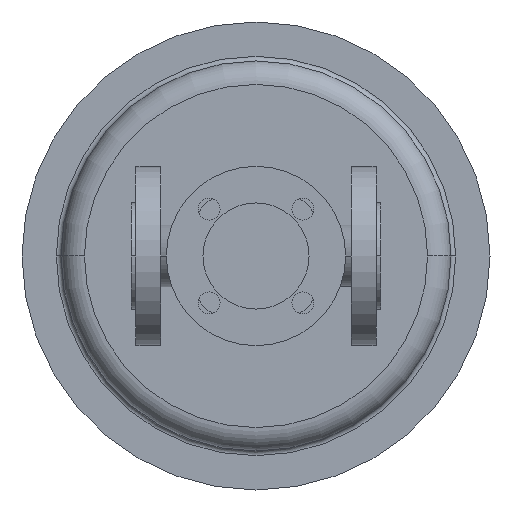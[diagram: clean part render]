
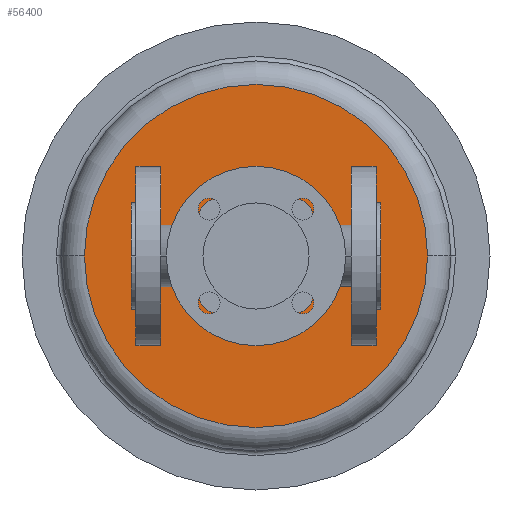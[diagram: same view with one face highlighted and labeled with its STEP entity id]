
A CAD part, front view. The second image highlights one B-rep face of the part: STEP entity #56400.
In plain terms, the highlighted planar face has unit normal (0, -1, 0).
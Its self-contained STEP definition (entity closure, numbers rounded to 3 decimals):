
#48630=CARTESIAN_POINT('',(-30.,545.,0.));
#48640=VERTEX_POINT('',#48630);
#48670=CARTESIAN_POINT('',(80.,545.,0.));
#48680=DIRECTION('',(0.,1.,0.));
#48690=DIRECTION('',(1.,0.,0.));
#48700=AXIS2_PLACEMENT_3D('',#48670,#48680,#48690);
#48710=CIRCLE('',#48700,110.);
#48720=CARTESIAN_POINT('',(80.,545.,-110.));
#48730=VERTEX_POINT('',#48720);
#48740=EDGE_CURVE('',#48730,#48640,#48710,.T.);
#48760=CARTESIAN_POINT('',(190.,545.,0.));
#48770=VERTEX_POINT('',#48760);
#48780=EDGE_CURVE('',#48770,#48730,#48710,.T.);
#49450=CARTESIAN_POINT('',(145.,545.,0.));
#49460=VERTEX_POINT('',#49450);
#49620=CARTESIAN_POINT('',(115.,545.,0.));
#49630=VERTEX_POINT('',#49620);
#49660=CARTESIAN_POINT('',(130.,545.,0.));
#49670=DIRECTION('',(0.,1.,0.));
#49680=DIRECTION('',(1.,0.,0.));
#49690=AXIS2_PLACEMENT_3D('',#49660,#49670,#49680);
#49700=CIRCLE('',#49690,15.);
#49710=EDGE_CURVE('',#49630,#49460,#49700,.T.);
#49870=CARTESIAN_POINT('',(45.,545.,0.));
#49880=VERTEX_POINT('',#49870);
#49910=CARTESIAN_POINT('',(30.,545.,0.));
#49920=DIRECTION('',(0.,1.,0.));
#49930=DIRECTION('',(1.,0.,0.));
#49940=AXIS2_PLACEMENT_3D('',#49910,#49920,#49930);
#49950=CIRCLE('',#49940,15.);
#49960=CARTESIAN_POINT('',(15.,545.,0.));
#49970=VERTEX_POINT('',#49960);
#49980=EDGE_CURVE('',#49880,#49970,#49950,.T.);
#50270=CARTESIAN_POINT('',(61.55,545.,0.));
#50280=VERTEX_POINT('',#50270);
#50330=CARTESIAN_POINT('',(80.,545.,0.));
#50340=DIRECTION('',(0.,1.,0.));
#50350=DIRECTION('',(1.,0.,0.));
#50360=AXIS2_PLACEMENT_3D('',#50330,#50340,#50350);
#50370=CIRCLE('',#50360,18.45);
#50380=CARTESIAN_POINT('',(98.45,545.,0.));
#50390=VERTEX_POINT('',#50380);
#50400=EDGE_CURVE('',#50280,#50390,#50370,.T.);
#56140=CARTESIAN_POINT('',(135.,545.,0.));
#56150=DIRECTION('',(0.,-1.,0.));
#56160=DIRECTION('',(-1.,0.,0.));
#56170=AXIS2_PLACEMENT_3D('',#56140,#56150,#56160);
#56180=PLANE('',#56170);
#56190=ORIENTED_EDGE('',*,*,#50400,.T.);
#56200=EDGE_CURVE('',#50390,#50280,#50370,.T.);
#56210=ORIENTED_EDGE('',*,*,#56200,.T.);
#56220=EDGE_LOOP('',(#56210,#56190));
#56230=FACE_BOUND('',#56220,.T.);
#56240=ORIENTED_EDGE('',*,*,#49980,.T.);
#56250=EDGE_CURVE('',#49970,#49880,#49950,.T.);
#56260=ORIENTED_EDGE('',*,*,#56250,.T.);
#56270=EDGE_LOOP('',(#56260,#56240));
#56280=FACE_BOUND('',#56270,.T.);
#56290=EDGE_CURVE('',#49460,#49630,#49700,.T.);
#56300=ORIENTED_EDGE('',*,*,#56290,.T.);
#56310=ORIENTED_EDGE('',*,*,#49710,.T.);
#56320=EDGE_LOOP('',(#56310,#56300));
#56330=FACE_BOUND('',#56320,.T.);
#56340=ORIENTED_EDGE('',*,*,#48740,.F.);
#56350=EDGE_CURVE('',#48640,#48770,#48710,.T.);
#56360=ORIENTED_EDGE('',*,*,#56350,.F.);
#56370=ORIENTED_EDGE('',*,*,#48780,.F.);
#56380=EDGE_LOOP('',(#56370,#56360,#56340));
#56390=FACE_OUTER_BOUND('',#56380,.T.);
#56400=ADVANCED_FACE('',(#56230,#56280,#56330,#56390),#56180,.T.);
